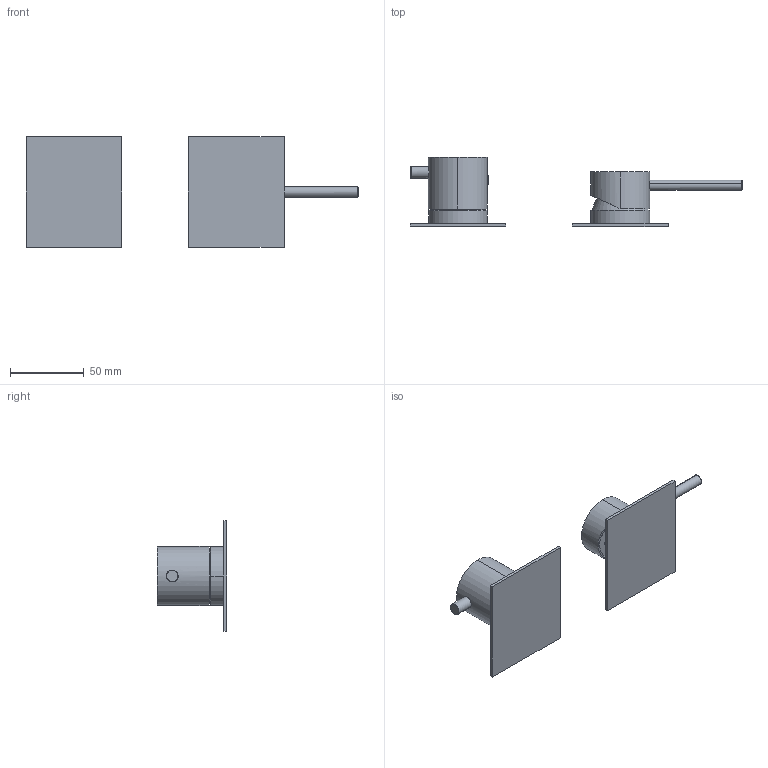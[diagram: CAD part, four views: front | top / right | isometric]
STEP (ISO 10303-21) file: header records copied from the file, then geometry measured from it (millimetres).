
FILE_DESCRIPTION((''),'2;1');
FILE_NAME('69563V221_SW0001','2025-11-20T09:27:40',('carloff'),(''),'CREO PARAMETRIC BY PTC INC, 2022014','CREO PARAMETRIC BY PTC INC, 2022014','');
FILE_SCHEMA(('CONFIG_CONTROL_DESIGN'));
Length unit declared in the file: millimetre
Products named in the file (1): 69563V221_SW0001
Bounding box: 225 x 46.8 x 75 mm (x, y, z)
Volume: 102172.2 mm3; surface area: 39208.8 mm2
Topology: 3 solids, 3 shells, 87 faces, 194 edges, 121 vertices
Faces by surface type: plane 31, cylinder 30, torus 16, cone 6, bspline 2, sphere 2
Entity records: 2804 total; most frequent: CARTESIAN_POINT 812, DIRECTION 432, ORIENTED_EDGE 384, EDGE_CURVE 192, AXIS2_PLACEMENT_3D 181, VERTEX_POINT 121, EDGE_LOOP 99, CIRCLE 96
